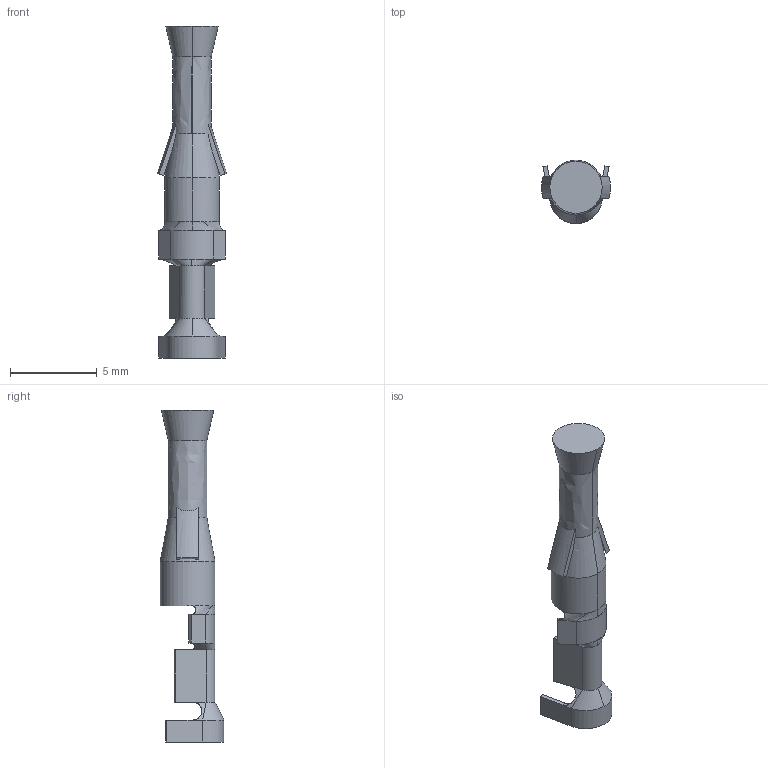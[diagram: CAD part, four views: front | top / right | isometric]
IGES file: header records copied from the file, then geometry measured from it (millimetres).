
Start section:  PTC IGES file: c-770146-5-g-3d.igs
Global section: file name: c-770146-5-g-3d.igs; native system: Pro/ENGINEER by Parametric Technology Corporation; preprocessor: 2005450; author: workeradm; organization: Unknown; date: 080821.065414; units: millimetre
Bounding box: 3.99 x 3.67 x 19.18 mm (x, y, z)
Surface area: 219.2 mm2 (no closed solid volume)
Topology: 0 solids, 0 shells, 90 faces, 484 edges, 484 vertices
Faces by surface type: bspline 62, revolution 26, extrusion 2
